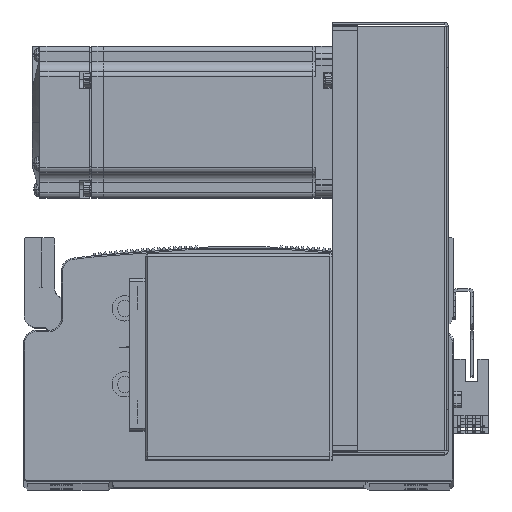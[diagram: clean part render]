
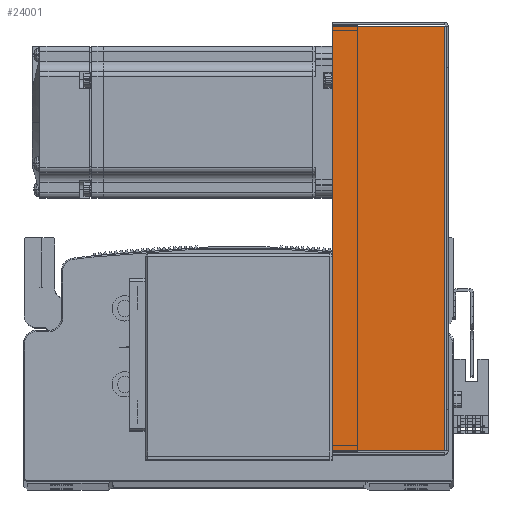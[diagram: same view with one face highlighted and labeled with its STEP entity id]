
A CAD part, top view. The second image highlights one B-rep face of the part: STEP entity #24001.
In plain terms, the highlighted planar face has unit normal (0, 0, 1).
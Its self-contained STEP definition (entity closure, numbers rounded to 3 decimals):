
#1104 = CARTESIAN_POINT ( 'NONE',  ( 83.793, 0.737, 40.5 ) ) ;
#1185 = CARTESIAN_POINT ( 'NONE',  ( -83.793, 45., 40.5 ) ) ;
#1207 = CARTESIAN_POINT ( 'NONE',  ( 83.793, 45., 40.5 ) ) ;
#1211 = CARTESIAN_POINT ( 'NONE',  ( -83.793, 0.737, 40.5 ) ) ;
#15122 = CARTESIAN_POINT ( 'NONE',  ( 0., 0.737, 40.5 ) ) ;
#15151 = DIRECTION ( 'NONE',  ( -1., 0., 0. ) ) ;
#15309 = DIRECTION ( 'NONE',  ( -1., 0., 0. ) ) ;
#15310 = CARTESIAN_POINT ( 'NONE',  ( -83.793, 0., 40.5 ) ) ;
#15324 = CARTESIAN_POINT ( 'NONE',  ( -84.5, 45., 40.5 ) ) ;
#15345 = DIRECTION ( 'NONE',  ( 0., 1., 0. ) ) ;
#15410 = CARTESIAN_POINT ( 'NONE',  ( 83.793, 0., 40.5 ) ) ;
#15414 = DIRECTION ( 'NONE',  ( 0., 1., 0. ) ) ;
#22295 = PLANE ( 'NONE',  #25666 ) ;
#22296 = CARTESIAN_POINT ( 'NONE',  ( 0., 0., 40.5 ) ) ;
#22331 = DIRECTION ( 'NONE',  ( 0., 0., -1. ) ) ;
#22375 = DIRECTION ( 'NONE',  ( -1., 0., 0. ) ) ;
#24001 = ADVANCED_FACE ( 'NONE', ( #50692 ), #22295, .F. ) ;
#25179 = VECTOR ( 'NONE', #15151, 1000. ) ;
#25236 = LINE ( 'NONE', #15122, #25179 ) ;
#25250 = VECTOR ( 'NONE', #15345, 1000. ) ;
#25278 = VECTOR ( 'NONE', #15309, 1000. ) ;
#25293 = LINE ( 'NONE', #15310, #25250 ) ;
#25298 = LINE ( 'NONE', #15324, #25278 ) ;
#25321 = VECTOR ( 'NONE', #15414, 1000. ) ;
#25363 = LINE ( 'NONE', #15410, #25321 ) ;
#25666 = AXIS2_PLACEMENT_3D ( 'NONE', #22296, #22331, #22375 ) ;
#35125 = ORIENTED_EDGE ( 'NONE', *, *, #47581, .T. ) ;
#35218 = ORIENTED_EDGE ( 'NONE', *, *, #47573, .F. ) ;
#35255 = ORIENTED_EDGE ( 'NONE', *, *, #47523, .F. ) ;
#35262 = ORIENTED_EDGE ( 'NONE', *, *, #47619, .T. ) ;
#36546 = EDGE_LOOP ( 'NONE', ( #35255, #35262, #35125, #35218 ) ) ;
#47523 = EDGE_CURVE ( 'NONE', #49497, #49606, #25236, .T. ) ;
#47573 = EDGE_CURVE ( 'NONE', #49606, #49566, #25293, .T. ) ;
#47581 = EDGE_CURVE ( 'NONE', #49629, #49566, #25298, .T. ) ;
#47619 = EDGE_CURVE ( 'NONE', #49497, #49629, #25363, .T. ) ;
#49497 = VERTEX_POINT ( 'NONE', #1104 ) ;
#49566 = VERTEX_POINT ( 'NONE', #1185 ) ;
#49606 = VERTEX_POINT ( 'NONE', #1211 ) ;
#49629 = VERTEX_POINT ( 'NONE', #1207 ) ;
#50692 = FACE_OUTER_BOUND ( 'NONE', #36546, .T. ) ;
